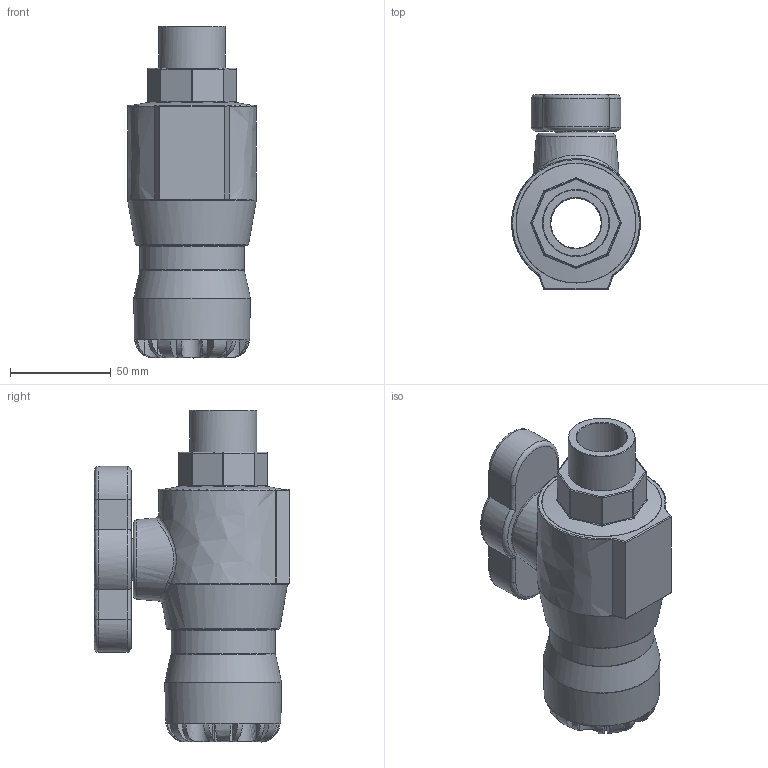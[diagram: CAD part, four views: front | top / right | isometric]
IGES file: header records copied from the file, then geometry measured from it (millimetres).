
Global section: file name: 03710020S00032010_03710020SF0032010; native system: Autodesk Inventor 2019; preprocessor: unknown; author: Lenora; date: 20220418.173302; units: millimetre
Bounding box: 64 x 97 x 165 mm (x, y, z)
Volume: 378151.5 mm3; surface area: 60040.7 mm2
Topology: 1 solids, 1 shells, 215 faces, 531 edges, 325 vertices
Faces by surface type: bspline 215
